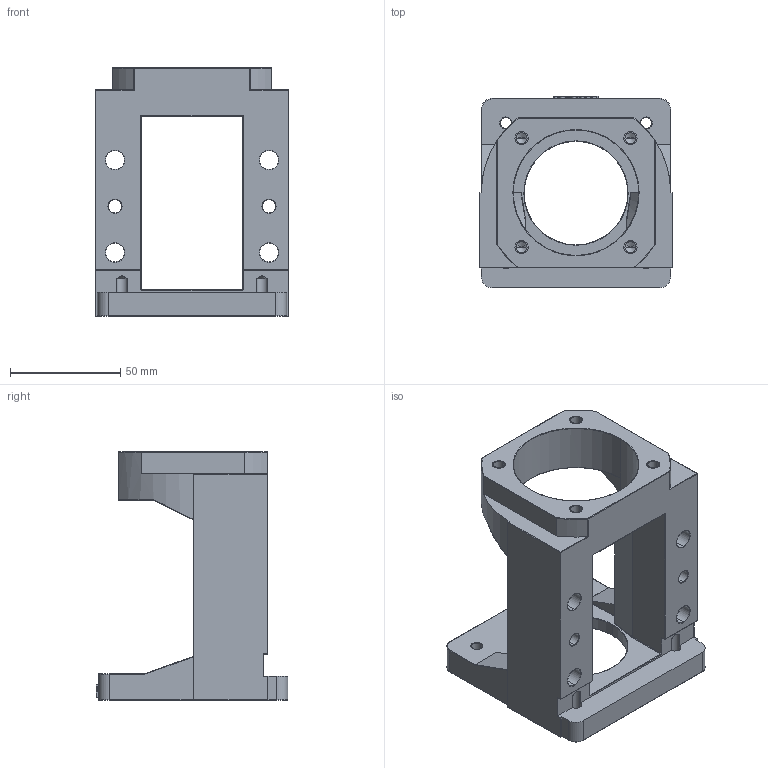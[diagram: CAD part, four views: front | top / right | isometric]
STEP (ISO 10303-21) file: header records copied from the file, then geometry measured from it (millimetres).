
FILE_DESCRIPTION((''),'2;1');
FILE_NAME('M80E-FKA20-A','2020-07-27T',('Administrator'),(''),'PRO/ENGINEER BY PARAMETRIC TECHNOLOGY CORPORATION, 2010280','PRO/ENGINEER BY PARAMETRIC TECHNOLOGY CORPORATION, 2010280','');
FILE_SCHEMA(('CONFIG_CONTROL_DESIGN'));
Length unit declared in the file: millimetre
Products named in the file (1): M80E-FKA20-A
Bounding box: 88 x 87 x 113 mm (x, y, z)
Volume: 212594.1 mm3; surface area: 55609 mm2
Topology: 1 solids, 5 shells, 417 faces, 1044 edges, 628 vertices
Faces by surface type: cylinder 128, plane 122, torus 85, extrusion 44, cone 22, sphere 10, bspline 6
Entity records: 13237 total; most frequent: CARTESIAN_POINT 3413, ORIENTED_EDGE 2028, DIRECTION 1997, EDGE_CURVE 1022, AXIS2_PLACEMENT_3D 729, VERTEX_POINT 628, VECTOR 539, LINE 495
